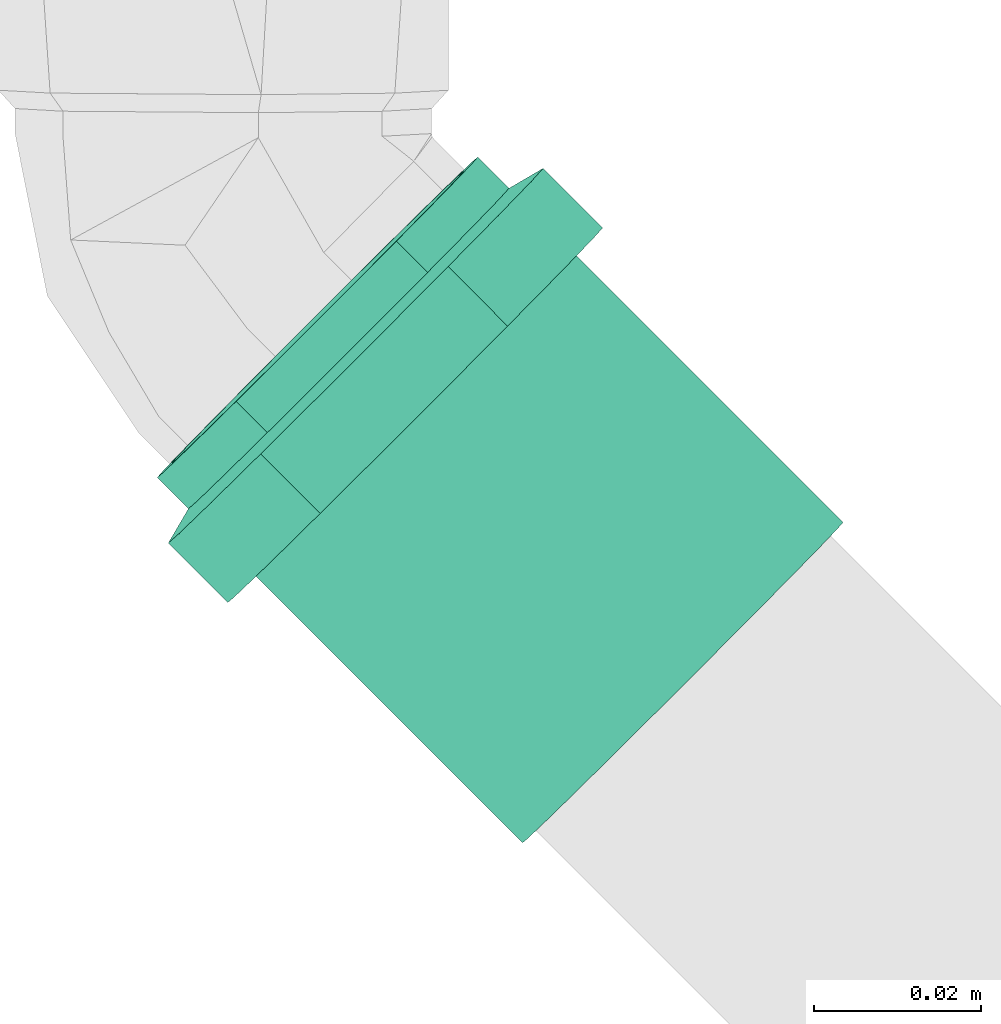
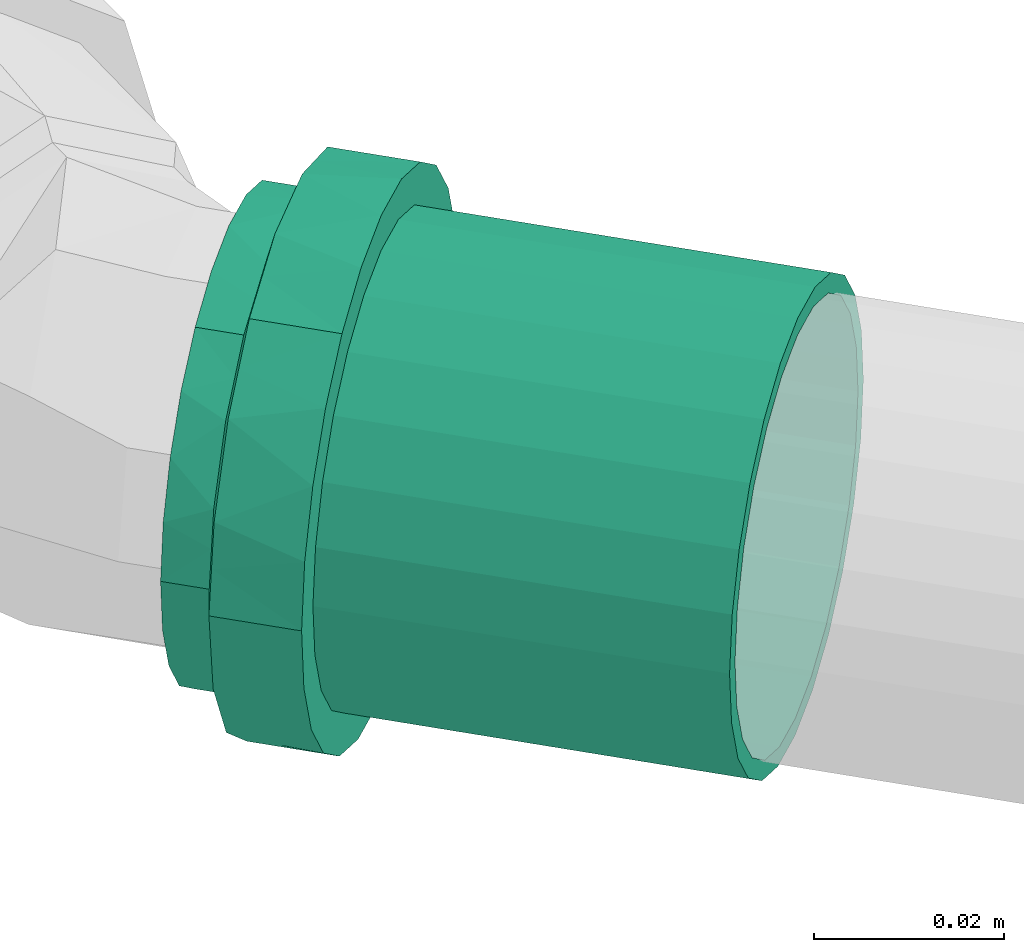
# One storey, part 36 of 589: 1 flow fitting.
"""IFC2X3 building model written with IfcOpenShell, lengths in millimetres."""

from ifc_helpers import new_model, entity, si_unit, converted_unit, derived_unit, direction, frame, origin, place, context, subcontext, project, spatial, faceted_brep, source, transform, mapped, material, type_object, type_shapes, element, save


model = new_model("IFC2X3")

# Units and contexts
model_context = context("Model", 3, precision=0.01, world=origin(), true_north=direction((6.123031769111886e-17, 1.0)))
body_context = subcontext(model_context, "Body", "Model", "MODEL_VIEW")
ifc_project = project(units=[si_unit("LENGTHUNIT", "METRE", prefix="MILLI"), si_unit("AREAUNIT", "SQUARE_METRE"), si_unit("VOLUMEUNIT", "CUBIC_METRE"), converted_unit("PLANEANGLEUNIT", "DEGREE", entity("IfcRatioMeasure", 0.017453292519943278), si_unit("PLANEANGLEUNIT", "RADIAN"), dimensions=[0, 0, 0, 0, 0, 0, 0]), si_unit("MASSUNIT", "GRAM", prefix="KILO"), derived_unit("MASSDENSITYUNIT", [(si_unit("MASSUNIT", "GRAM", prefix="KILO"), 1), (si_unit("LENGTHUNIT", "METRE"), -3)]), derived_unit("IONCONCENTRATIONUNIT", [(si_unit("MASSUNIT", "GRAM", prefix="KILO"), 1), (si_unit("LENGTHUNIT", "METRE"), -3)]), derived_unit("MOMENTOFINERTIAUNIT", [(si_unit("LENGTHUNIT", "METRE"), 4)]), si_unit("TIMEUNIT", "SECOND"), si_unit("FREQUENCYUNIT", "HERTZ"), si_unit("THERMODYNAMICTEMPERATUREUNIT", "DEGREE_CELSIUS"), derived_unit("THERMALTRANSMITTANCEUNIT", [(si_unit("MASSUNIT", "GRAM", prefix="KILO"), 1), (si_unit("THERMODYNAMICTEMPERATUREUNIT", "KELVIN"), -1), (si_unit("TIMEUNIT", "SECOND"), -3)]), derived_unit("THERMALCONDUCTANCEUNIT", [(si_unit("MASSUNIT", "GRAM", prefix="KILO"), 1), (si_unit("THERMODYNAMICTEMPERATUREUNIT", "KELVIN"), -1), (si_unit("TIMEUNIT", "SECOND"), -3), (si_unit("LENGTHUNIT", "METRE"), 1)]), derived_unit("VOLUMETRICFLOWRATEUNIT", [(si_unit("LENGTHUNIT", "METRE"), 3), (si_unit("TIMEUNIT", "SECOND"), -1)]), derived_unit("MASSFLOWRATEUNIT", [(si_unit("MASSUNIT", "GRAM", prefix="KILO"), 1), (si_unit("TIMEUNIT", "SECOND"), -1)]), derived_unit("ROTATIONALFREQUENCYUNIT", [(si_unit("TIMEUNIT", "SECOND"), -1)]), si_unit("ELECTRICCURRENTUNIT", "AMPERE"), si_unit("ELECTRICVOLTAGEUNIT", "VOLT"), si_unit("POWERUNIT", "WATT"), si_unit("FORCEUNIT", "NEWTON", prefix="KILO"), si_unit("ILLUMINANCEUNIT", "LUX"), si_unit("LUMINOUSFLUXUNIT", "LUMEN"), si_unit("LUMINOUSINTENSITYUNIT", "CANDELA"), derived_unit("USERDEFINED", [(si_unit("MASSUNIT", "GRAM", prefix="KILO"), -1), (si_unit("LENGTHUNIT", "METRE"), -2), (si_unit("TIMEUNIT", "SECOND"), 3), (si_unit("LUMINOUSFLUXUNIT", "LUMEN"), 1)]), derived_unit("USERDEFINED", [(si_unit("MASSUNIT", "GRAM", prefix="KILO"), 1), (si_unit("TIMEUNIT", "SECOND"), -3), (si_unit("LENGTHUNIT", "METRE"), 3), (si_unit("ELECTRICCURRENTUNIT", "AMPERE"), -2)]), derived_unit("SOUNDPOWERUNIT", [(si_unit("MASSUNIT", "GRAM", prefix="KILO"), 1), (si_unit("TIMEUNIT", "SECOND"), -3), (si_unit("LENGTHUNIT", "METRE"), 2)]), derived_unit("SOUNDPRESSUREUNIT", [(si_unit("MASSUNIT", "GRAM", prefix="KILO"), 1), (si_unit("LENGTHUNIT", "METRE"), -1), (si_unit("TIMEUNIT", "SECOND"), -2)]), derived_unit("LINEARVELOCITYUNIT", [(si_unit("LENGTHUNIT", "METRE"), 1), (si_unit("TIMEUNIT", "SECOND"), -1)]), si_unit("PRESSUREUNIT", "PASCAL"), derived_unit("USERDEFINED", [(si_unit("MASSUNIT", "GRAM", prefix="KILO"), 1), (si_unit("LENGTHUNIT", "METRE"), -2), (si_unit("TIMEUNIT", "SECOND"), -2)]), derived_unit("LINEARFORCEUNIT", [(si_unit("MASSUNIT", "GRAM", prefix="KILO"), 1), (si_unit("TIMEUNIT", "SECOND"), -2)]), derived_unit("PLANARFORCEUNIT", [(si_unit("MASSUNIT", "GRAM", prefix="KILO"), 1), (si_unit("LENGTHUNIT", "METRE"), -1), (si_unit("TIMEUNIT", "SECOND"), -2)]), derived_unit("SPECIFICHEATCAPACITYUNIT", [(si_unit("THERMODYNAMICTEMPERATUREUNIT", "KELVIN"), -1), (si_unit("LENGTHUNIT", "METRE"), 2), (si_unit("TIMEUNIT", "SECOND"), -2)]), derived_unit("HEATINGVALUEUNIT", [(si_unit("LENGTHUNIT", "METRE"), 2), (si_unit("TIMEUNIT", "SECOND"), -2)]), derived_unit("VAPORPERMEABILITYUNIT", [(si_unit("LENGTHUNIT", "METRE"), -1), (si_unit("TIMEUNIT", "SECOND"), 1)]), derived_unit("DYNAMICVISCOSITYUNIT", [(si_unit("MASSUNIT", "GRAM", prefix="KILO"), 1), (si_unit("TIMEUNIT", "SECOND"), -1), (si_unit("LENGTHUNIT", "METRE"), -1)]), derived_unit("THERMALEXPANSIONCOEFFICIENTUNIT", [(si_unit("THERMODYNAMICTEMPERATUREUNIT", "KELVIN"), -1)]), derived_unit("MODULUSOFELASTICITYUNIT", [(si_unit("MASSUNIT", "GRAM", prefix="KILO"), 1), (si_unit("LENGTHUNIT", "METRE"), -1), (si_unit("TIMEUNIT", "SECOND"), -2)]), derived_unit("ISOTHERMALMOISTURECAPACITYUNIT", [(si_unit("LENGTHUNIT", "METRE"), 3), (si_unit("MASSUNIT", "GRAM", prefix="KILO"), -1)]), derived_unit("MOISTUREDIFFUSIVITYUNIT", [(si_unit("TIMEUNIT", "SECOND"), -1), (si_unit("LENGTHUNIT", "METRE"), 2)])], contexts=[model_context])

# Site, building, storey
site_placement = place(None, origin())
site = spatial("IfcSite", under=ifc_project, at=site_placement, Name="Default", CompositionType="ELEMENT")
building_placement = place(site_placement, origin())
building = spatial("IfcBuilding", under=site, at=building_placement, CompositionType="ELEMENT")
storey_placement = place(building_placement, frame((0.0, 0.0, 100.0)))
storey = spatial("IfcBuildingStorey", under=building, at=storey_placement, Name="TÉRREO", CompositionType="ELEMENT", Elevation=100.0)

# Flow fitting
ifc_material = material(Name="PVC Série Normal")
pipe_fitting_type = type_object("IfcPipeFittingType", Name="PVC Esgoto_Luva Simples para Conexão_Rodrigo MEP:Standard", PredefinedType="NOTDEFINED", material=ifc_material)
shared_shape = source(origin(), body_context, "Body", "Brep", [
    faceted_brep([(16.599999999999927, 15.900000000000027, -27.53960784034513), (16.599999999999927, 22.485995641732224, -22.485995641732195), (16.599999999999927, 13.599999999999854, -23.555890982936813), (16.599999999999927, 7.039878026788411, -26.273182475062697), (16.599999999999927, 8.2304456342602, -30.71644127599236), (16.599999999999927, 19.233304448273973, -19.233304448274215), (16.599999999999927, 27.539607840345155, -15.899999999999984), (16.599999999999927, 23.55589098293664, -13.600000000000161), (16.599999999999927, 26.273182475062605, -7.03987802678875), (16.599999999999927, 30.716441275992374, -8.230445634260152), (16.599999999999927, 27.2, 0.0), (16.599999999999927, 31.8, 0.0), (16.599999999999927, 26.273182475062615, 7.0398780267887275), (16.599999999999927, 30.71644127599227, 8.23044563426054), (16.599999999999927, 23.555890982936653, 13.60000000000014), (16.599999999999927, 27.539607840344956, 15.900000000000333), (16.599999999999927, 19.233304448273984, 19.2333044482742), (16.599999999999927, 22.485995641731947, 22.48599564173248), (16.599999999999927, 13.599999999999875, 23.555890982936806), (16.599999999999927, 15.899999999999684, 27.53960784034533), (16.599999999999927, 7.039878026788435, 26.27318247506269), (16.599999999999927, 8.230445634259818, 30.716441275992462), (16.599999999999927, 0.0, 27.2), (16.599999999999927, 0.0, 31.8), (16.599999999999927, -7.039878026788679, 26.273182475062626), (16.599999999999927, -8.230445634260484, 30.716441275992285), (16.599999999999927, -13.600000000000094, 23.555890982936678), (16.599999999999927, -15.900000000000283, 27.53960784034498), (16.599999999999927, -19.23330444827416, 19.233304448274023), (16.599999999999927, -22.485995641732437, 22.48599564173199), (16.599999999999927, -23.55589098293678, 13.59999999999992), (16.599999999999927, -27.539607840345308, 15.899999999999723), (16.599999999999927, -30.71644127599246, 8.230445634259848), (16.599999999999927, -26.273182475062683, 7.039878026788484), (16.599999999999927, -31.8, 0.0), (16.599999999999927, -27.2, 0.0), (16.599999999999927, -30.71644127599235, -8.23044563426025), (16.599999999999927, -26.273182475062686, -7.03987802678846), (16.599999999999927, -27.53960784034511, -15.90000000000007), (16.599999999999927, -23.55589098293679, -13.599999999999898), (16.599999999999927, -22.485995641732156, -22.485995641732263), (16.599999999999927, -19.233304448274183, -19.233304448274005), (16.599999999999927, -15.899999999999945, -27.53960784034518), (16.599999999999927, -13.600000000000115, -23.555890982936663), (16.599999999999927, -8.230445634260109, -30.716441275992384), (16.599999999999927, -7.039878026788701, -26.273182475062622), (16.599999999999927, 0.0, -31.8), (16.599999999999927, 0.0, -27.2), (6.500000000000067, -10.708108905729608, 29.429219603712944), (6.500000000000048, -24.359073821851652, 20.44200387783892), (6.500000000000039, -27.120498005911, 15.6595386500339), (6.50000000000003, -29.881922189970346, 10.877073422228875), (6.500000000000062, -15.89769721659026, 27.540937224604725), (6.500000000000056, -20.128385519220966, 23.991470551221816), (6.50000000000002, -30.840961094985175, 5.438536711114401), (6.5000000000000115, -31.8, 0.0), (6.50000000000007, -5.518520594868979, 31.317501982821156), (6.500000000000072, 5.526376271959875, 31.316116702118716), (6.50000000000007, 0.00392783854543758, 31.316809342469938), (6.500000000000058, 20.134403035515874, 23.986420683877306), (6.500000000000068, 10.715490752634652, 29.42653259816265), (6.500000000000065, 15.904605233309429, 27.536948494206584), (6.500000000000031, 29.8846497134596, 10.869577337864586), (6.500000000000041, 27.12442527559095, 15.652735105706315), (6.5000000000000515, 24.364200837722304, 20.435892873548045), (6.5000000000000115, 31.8, 0.0), (6.499999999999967, 24.364200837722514, -20.435892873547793), (6.499999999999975, 27.12442527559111, -15.652735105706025), (6.499999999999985, 29.884649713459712, -10.869577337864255), (6.4999999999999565, 15.904605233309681, -27.53694849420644), (6.499999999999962, 20.134403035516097, -23.986420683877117), (6.499999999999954, 10.715490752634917, -29.42653259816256), (6.499999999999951, 5.526376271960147, -31.31611670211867), (6.499999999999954, -5.518520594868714, -31.317501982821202), (6.499999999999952, 0.003927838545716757, -31.316809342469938), (6.499999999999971, -20.128385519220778, -23.99147055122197), (6.499999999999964, -15.897697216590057, -27.54093722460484), (6.499999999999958, -10.70810890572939, -29.42921960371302), (6.499999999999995, -29.881922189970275, -10.877073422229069), (6.499999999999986, -27.12049800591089, -15.659538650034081), (6.499999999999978, -24.359073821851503, -20.442003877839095), (6.500000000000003, -30.840961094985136, -5.438536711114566), (6.499999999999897, -30.696173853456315, -6.259599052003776), (62.0, 13.600000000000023, -23.55589098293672), (62.0, 19.233304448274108, -19.23330444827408), (62.0, 12.499999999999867, -21.650635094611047), (62.0, 6.470476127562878, -24.14814565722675), (62.0, 7.039878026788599, -26.273182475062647), (62.0, 17.677669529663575, -17.677669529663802), (62.0, 23.55589098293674, -13.599999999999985), (62.0, 21.65063509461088, -12.50000000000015), (62.0, 24.148145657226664, -6.470476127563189), (62.0, 26.27318247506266, -7.039878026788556), (62.0, 25.0, 0.0), (62.0, 27.2, 0.0), (62.0, 24.148145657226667, 6.4704761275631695), (62.0, 26.273182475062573, 7.03987802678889), (62.0, 21.650635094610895, 12.500000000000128), (62.0, 23.555890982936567, 13.600000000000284), (62.0, 17.67766952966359, 17.67766952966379), (62.0, 19.233304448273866, 19.233304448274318), (62.0, 12.499999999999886, 21.650635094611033), (62.0, 13.59999999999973, 23.55589098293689), (62.0, 6.4704761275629, 24.14814565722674), (62.0, 7.039878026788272, 26.273182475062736), (62.0, 0.0, 25.0), (62.0, 0.0, 27.2), (62.0, -6.470476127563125, 24.148145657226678), (62.0, -7.039878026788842, 26.273182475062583), (62.0, -12.500000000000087, 21.650635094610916), (62.0, -13.600000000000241, 23.555890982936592), (62.0, -17.677669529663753, 17.677669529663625), (62.0, -19.233304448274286, 19.2333044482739), (62.0, -21.65063509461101, 12.499999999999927), (62.0, -23.555890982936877, 13.599999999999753), (62.0, -26.27318247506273, 7.039878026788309), (62.0, -24.14814565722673, 6.470476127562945), (62.0, -27.2, 0.0), (62.0, -25.0, 0.0), (62.0, -26.27318247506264, -7.0398780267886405), (62.0, -24.148145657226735, -6.470476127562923), (62.0, -23.5558909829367, -13.600000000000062), (62.0, -21.650635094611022, -12.499999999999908), (62.0, -19.233304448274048, -19.233304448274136), (62.0, -17.67766952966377, -17.677669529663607), (62.0, -13.599999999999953, -23.555890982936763), (62.0, -12.500000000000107, -21.650635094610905), (62.0, -7.039878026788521, -26.27318247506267), (62.0, -6.470476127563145, -24.148145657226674), (62.0, 0.0, -27.2), (62.0, 0.0, -25.0), (0.0, 12.499999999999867, -21.650635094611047), (0.0, 19.233304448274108, -19.23330444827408), (0.0, 13.600000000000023, -23.55589098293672), (0.0, 6.470476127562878, -24.14814565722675), (0.0, 17.677669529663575, -17.677669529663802), (0.0, 23.55589098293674, -13.599999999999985), (0.0, 21.65063509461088, -12.50000000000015), (0.0, 24.148145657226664, -6.470476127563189), (0.0, 26.27318247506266, -7.039878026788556), (0.0, 25.0, 0.0), (0.0, 27.2, 0.0), (0.0, 24.148145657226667, 6.4704761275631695), (0.0, 26.273182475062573, 7.03987802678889), (0.0, 21.650635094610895, 12.500000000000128), (0.0, 23.555890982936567, 13.600000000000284), (0.0, 17.67766952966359, 17.67766952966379), (0.0, 19.233304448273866, 19.233304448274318), (0.0, 12.499999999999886, 21.650635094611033), (0.0, 13.59999999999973, 23.55589098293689), (0.0, 6.4704761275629, 24.14814565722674), (0.0, 7.039878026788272, 26.273182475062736), (0.0, 0.0, 25.0), (0.0, 0.0, 27.2), (0.0, -6.470476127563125, 24.148145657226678), (0.0, -7.039878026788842, 26.273182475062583), (0.0, -12.500000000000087, 21.650635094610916), (0.0, -13.600000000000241, 23.555890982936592), (0.0, -17.677669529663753, 17.677669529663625), (0.0, -19.233304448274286, 19.2333044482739), (0.0, -21.65063509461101, 12.499999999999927), (0.0, -23.555890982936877, 13.599999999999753), (0.0, -26.27318247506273, 7.039878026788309), (0.0, -24.14814565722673, 6.470476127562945), (0.0, -27.2, 0.0), (0.0, -25.0, 0.0), (0.0, -26.27318247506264, -7.0398780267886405), (0.0, -24.148145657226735, -6.470476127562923), (0.0, -23.5558909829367, -13.600000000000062), (0.0, -21.650635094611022, -12.499999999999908), (0.0, -19.233304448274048, -19.233304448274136), (0.0, -17.67766952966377, -17.677669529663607), (0.0, -13.599999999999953, -23.555890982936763), (0.0, -12.500000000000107, -21.650635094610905), (0.0, -7.039878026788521, -26.27318247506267), (0.0, -6.470476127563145, -24.148145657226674), (0.0, 0.0, -27.2), (0.0, 0.0, -25.0), (0.0, 7.039878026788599, -26.273182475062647), (5.300000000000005, -26.37968999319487, 4.651830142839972), (5.299999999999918, -26.25584678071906, 5.354122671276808), (5.300000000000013, -25.559379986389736, 9.303660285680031), (5.300000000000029, -20.835434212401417, 17.48498444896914), (5.300000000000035, -17.216732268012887, 20.521006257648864), (5.300000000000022, -23.19740709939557, 13.394322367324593), (5.3000000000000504, -4.720244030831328, 26.787297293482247), (5.300000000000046, -9.15913717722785, 25.172162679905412), (5.299999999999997, -27.2, 0.0), (5.300000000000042, -13.598030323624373, 23.557028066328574), (5.300000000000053, 9.165451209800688, 25.169864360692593), (5.300000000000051, 13.603939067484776, 23.55361632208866), (5.300000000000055, 4.7269633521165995, 26.786112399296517), (5.300000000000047, 17.221879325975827, 20.516686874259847), (5.300000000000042, 20.839819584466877, 17.479757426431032), (5.3000000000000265, 25.56171296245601, 9.297248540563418), (5.299999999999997, 27.2, 0.0), (5.3000000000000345, 23.20076627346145, 13.388502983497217), (5.300000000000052, 0.003359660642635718, 26.786704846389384), (5.299999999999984, 25.56171296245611, -9.29724854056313), (5.299999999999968, 20.839819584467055, -17.47975742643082), (5.2999999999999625, 17.22187932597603, -20.516686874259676), (5.299999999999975, 23.200766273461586, -13.388502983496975), (5.299999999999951, 4.726963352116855, -26.78611239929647), (5.2999999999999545, 9.165451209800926, -25.169864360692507), (5.299999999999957, 13.603939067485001, -23.553616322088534), (5.29999999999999, -26.379689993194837, -4.651830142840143), (5.299999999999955, -9.159137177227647, -25.17216267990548), (5.299999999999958, -13.5980303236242, -23.55702806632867), (5.299999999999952, -4.720244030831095, -26.787297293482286), (5.299999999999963, -17.216732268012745, -20.52100625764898), (5.299999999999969, -20.83543421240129, -17.484984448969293), (5.299999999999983, -25.559379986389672, -9.303660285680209), (5.299999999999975, -23.197407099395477, -13.394322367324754), (5.299999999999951, 0.003359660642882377, -26.78670484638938), (39.0, -25.0, 0.0), (39.0, 25.0, 0.0)], [[[0, 1, 2]], [[0, 2, 3]], [[3, 4, 0]], [[2, 1, 5]], [[6, 5, 1]], [[7, 5, 6]], [[8, 7, 6]], [[8, 6, 9]], [[8, 9, 10]], [[10, 9, 11]], [[12, 10, 11]], [[12, 11, 13]], [[14, 12, 13]], [[14, 13, 15]], [[16, 14, 15]], [[15, 17, 16]], [[17, 18, 16]], [[17, 19, 18]], [[18, 19, 20]], [[21, 20, 19]], [[20, 21, 22]], [[22, 21, 23]], [[22, 23, 24]], [[24, 23, 25]], [[24, 25, 26]], [[27, 26, 25]], [[27, 28, 26]], [[28, 27, 29]], [[30, 28, 29]], [[31, 30, 29]], [[32, 30, 31]], [[33, 30, 32]], [[33, 32, 34]], [[35, 33, 34]], [[36, 35, 34]], [[36, 37, 35]], [[37, 36, 38]], [[39, 37, 38]], [[39, 38, 40]], [[39, 40, 41]], [[40, 42, 41]], [[41, 42, 43]], [[43, 42, 44]], [[44, 45, 43]], [[46, 45, 44]], [[4, 47, 46]], [[46, 47, 45]], [[4, 3, 47]], [[48, 27, 25]], [[31, 29, 49]], [[31, 49, 50, 51]], [[52, 53, 27]], [[32, 51, 54]], [[54, 55, 34]], [[54, 34, 32]], [[25, 56, 48]], [[49, 29, 53]], [[23, 57, 58, 56]], [[59, 19, 17]], [[27, 53, 29]], [[48, 52, 27]], [[31, 51, 32]], [[57, 23, 21]], [[60, 19, 61]], [[15, 62, 63, 64]], [[19, 60, 21]], [[15, 13, 62]], [[17, 64, 59]], [[57, 21, 60]], [[23, 56, 25]], [[15, 64, 17]], [[13, 65, 62]], [[13, 11, 65]], [[59, 61, 19]], [[65, 11, 9]], [[6, 1, 66]], [[6, 66, 67, 68]], [[69, 70, 0]], [[68, 65, 9]], [[71, 69, 0]], [[71, 0, 4]], [[4, 72, 71]], [[66, 1, 70]], [[46, 73, 74, 72]], [[75, 76, 42]], [[0, 70, 1]], [[75, 42, 40]], [[6, 68, 9]], [[73, 46, 44]], [[77, 42, 76]], [[38, 78, 79, 80]], [[42, 77, 44]], [[38, 36, 78]], [[40, 80, 75]], [[73, 44, 77]], [[46, 72, 4]], [[38, 80, 40]], [[36, 81, 82, 78]], [[55, 81, 34]], [[34, 81, 36]], [[83, 84, 85]], [[83, 85, 86]], [[86, 87, 83]], [[85, 84, 88]], [[89, 88, 84]], [[88, 89, 90]], [[90, 89, 91]], [[92, 91, 89]], [[92, 93, 91]], [[93, 92, 94]], [[95, 93, 94]], [[94, 96, 95]], [[95, 96, 97]], [[98, 97, 96]], [[97, 98, 99]], [[99, 98, 100]], [[101, 99, 100]], [[100, 102, 101]], [[101, 102, 103]], [[104, 103, 102]], [[103, 104, 105]], [[105, 104, 106]], [[105, 106, 107]], [[107, 106, 108]], [[107, 108, 109]], [[110, 109, 108]], [[110, 111, 109]], [[111, 110, 112]], [[112, 113, 111]], [[114, 113, 112]], [[113, 114, 115]], [[115, 116, 113]], [[117, 116, 115]], [[117, 118, 116]], [[119, 118, 117]], [[119, 120, 118]], [[120, 119, 121]], [[121, 122, 120]], [[122, 121, 123]], [[122, 123, 124]], [[123, 125, 124]], [[124, 125, 126]], [[126, 125, 127]], [[127, 128, 126]], [[129, 128, 127]], [[87, 130, 129]], [[129, 130, 128]], [[87, 86, 130]], [[131, 132, 133]], [[134, 131, 133]], [[135, 132, 131]], [[132, 135, 136]], [[137, 136, 135]], [[138, 136, 137]], [[136, 138, 139]], [[138, 140, 139]], [[141, 139, 140]], [[141, 140, 142]], [[142, 143, 141]], [[144, 143, 142]], [[143, 144, 145]], [[146, 145, 144]], [[147, 145, 146]], [[147, 146, 148]], [[148, 149, 147]], [[150, 149, 148]], [[149, 150, 151]], [[152, 151, 150]], [[153, 151, 152]], [[154, 153, 152]], [[155, 153, 154]], [[156, 155, 154]], [[155, 156, 157]], [[156, 158, 157]], [[159, 157, 158]], [[158, 160, 159]], [[159, 160, 161]], [[162, 161, 160]], [[160, 163, 162]], [[162, 163, 164]], [[163, 165, 164]], [[164, 165, 166]], [[165, 167, 166]], [[168, 166, 167]], [[167, 169, 168]], [[170, 168, 169]], [[171, 170, 169]], [[171, 172, 170]], [[173, 172, 171]], [[174, 172, 173]], [[173, 175, 174]], [[174, 175, 176]], [[175, 177, 176]], [[177, 134, 178]], [[176, 177, 178]], [[133, 178, 134]], [[162, 179, 180, 181]], [[159, 182, 183]], [[182, 161, 181, 184]], [[185, 155, 186]], [[161, 162, 181]], [[187, 179, 164]], [[183, 188, 157]], [[183, 157, 159]], [[161, 182, 159]], [[189, 190, 149]], [[189, 149, 151]], [[157, 188, 186]], [[157, 186, 155]], [[153, 155, 185]], [[164, 179, 162]], [[151, 191, 189]], [[147, 192, 193]], [[143, 194, 195]], [[194, 145, 193, 196]], [[143, 195, 141]], [[10, 12, 96, 94]], [[149, 192, 147]], [[153, 185, 197, 191]], [[153, 191, 151]], [[145, 147, 193]], [[190, 192, 149]], [[145, 194, 143]], [[139, 195, 198]], [[132, 199, 200]], [[199, 136, 198, 201]], [[202, 178, 203]], [[136, 139, 198]], [[139, 141, 195]], [[92, 8, 10, 94]], [[133, 203, 178]], [[200, 204, 133]], [[136, 199, 132]], [[205, 164, 166]], [[206, 207, 172]], [[133, 204, 203]], [[206, 172, 174]], [[176, 178, 202]], [[200, 133, 132]], [[174, 208, 206]], [[170, 209, 210]], [[166, 211, 205]], [[211, 168, 210, 212]], [[168, 211, 166]], [[172, 209, 170]], [[176, 202, 213, 208]], [[176, 208, 174]], [[168, 170, 210]], [[207, 209, 172]], [[205, 187, 164]], [[116, 118, 214, 165, 163]], [[156, 109, 111, 158]], [[111, 113, 160, 158]], [[113, 116, 163, 160]], [[107, 109, 156, 154]], [[154, 152, 105, 107]], [[103, 105, 152, 150]], [[103, 150, 148, 101]], [[142, 95, 97, 144]], [[97, 99, 146, 144]], [[99, 101, 148, 146]], [[93, 95, 142, 140, 215]], [[215, 140, 138, 91, 93]], [[135, 131, 85, 88]], [[90, 91, 138, 137]], [[90, 137, 135, 88]], [[86, 85, 131, 134]], [[134, 177, 130, 86]], [[128, 130, 177, 175]], [[128, 175, 173, 126]], [[167, 120, 122, 169]], [[122, 124, 171, 169]], [[124, 126, 173, 171]], [[118, 120, 167, 165, 214]], [[211, 78, 82, 81, 55, 187, 205]], [[79, 78, 211, 212, 210, 80]], [[75, 80, 210, 209, 207, 76]], [[207, 206, 208, 73, 77, 76]], [[213, 202, 72, 74, 73, 208]], [[203, 204, 69, 71, 72, 202]], [[198, 195, 65, 68]], [[199, 201, 198, 68, 67, 66]], [[204, 200, 199, 66, 70, 69]], [[195, 194, 62, 65]], [[197, 185, 56, 58, 57, 191]], [[63, 62, 194, 196, 193, 64]], [[57, 60, 61, 190, 189, 191]], [[193, 192, 190, 61, 59, 64]], [[48, 56, 185, 186, 188, 52]], [[187, 55, 54, 51, 181, 180, 179]], [[182, 184, 181, 51, 50, 49]], [[188, 183, 182, 49, 53, 52]], [[30, 33, 115, 114]], [[117, 115, 33, 35]], [[26, 28, 112, 110]], [[114, 112, 28, 30]], [[24, 26, 110, 108]], [[108, 106, 22, 24]], [[18, 20, 104, 102]], [[100, 16, 18, 102]], [[12, 14, 98, 96]], [[100, 98, 14, 16]], [[104, 20, 22, 106]], [[89, 7, 8, 92]], [[83, 87, 3, 2]], [[7, 89, 84, 5]], [[83, 2, 5, 84]], [[87, 129, 47, 3]], [[43, 45, 127, 125]], [[123, 41, 43, 125]], [[37, 39, 121, 119]], [[123, 121, 39, 41]], [[35, 37, 119, 117]], [[127, 45, 47, 129]]]),
])
type_shapes(pipe_fitting_type, [shared_shape])
flow_fitting_placement = place(storey_placement, frame((-399.0444257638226, -10649.942018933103, -273.6317034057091), z_axis=(-0.0058565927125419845, -0.019995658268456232, 0.9997829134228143), x_axis=(0.7070714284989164, -0.7070714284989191, -0.009999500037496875)))
element("IfcFlowFitting", 1, at=flow_fitting_placement, inside=storey, type_object=pipe_fitting_type, material=ifc_material, Name="PVC Esgoto_Luva Simples para Conexão_Rodrigo MEP:Standard", ObjectType="PVC Esgoto_Luva Simples para Conexão_Rodrigo MEP:Standard", context=body_context, shape_type="MappedRepresentation", body=[
    mapped(shared_shape, transform((0.0, 0.0, 0.0), scale=1.0)),
])

save(model, "model.ifc")
